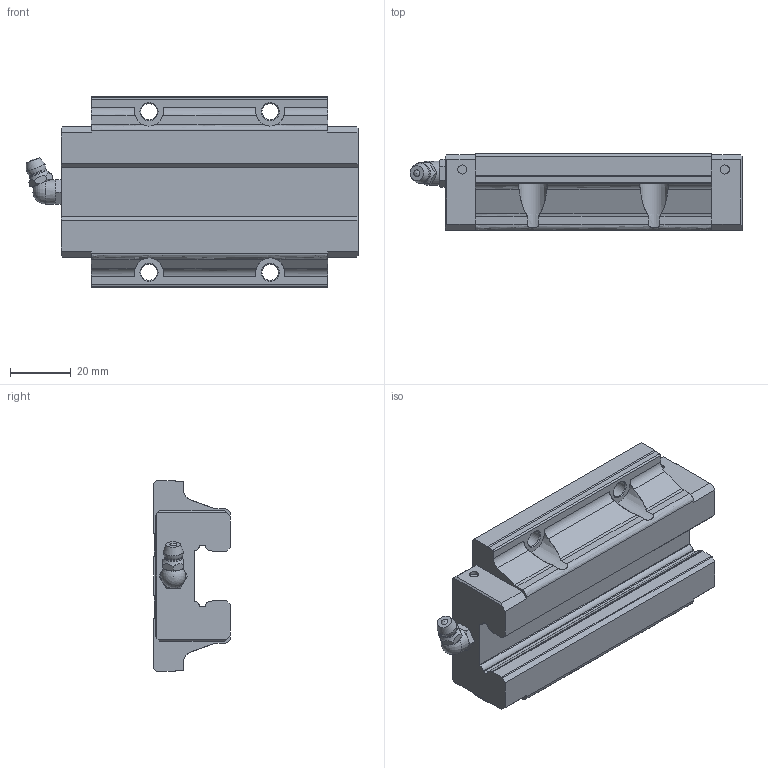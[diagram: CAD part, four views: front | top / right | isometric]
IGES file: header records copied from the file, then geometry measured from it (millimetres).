
Start section: Data from Parasolid IGES Translator 26.0.171, Copyright(c) 2006 Siemens PLM Software. All Rights Reserved.
Global section: file name: SHS20LC1SS(GK) BLOCK(B-M6F1).igs; native system: By Siemens PLM Incorporated; preprocessor: XPlus GENERIC/IGES 26.0.171; author: Noname; organization: Noname; date: 20240514.043557; units: millimetre
Bounding box: 109.6 x 25.4 x 63 mm (x, y, z)
Surface area: 21873.3 mm2 (no closed solid volume)
Topology: 0 solids, 0 shells, 179 faces, 1008 edges, 981 vertices
Faces by surface type: extrusion 98, revolution 81
